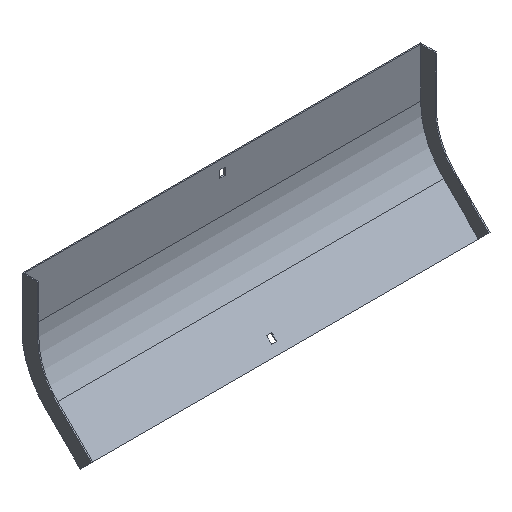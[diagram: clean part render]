
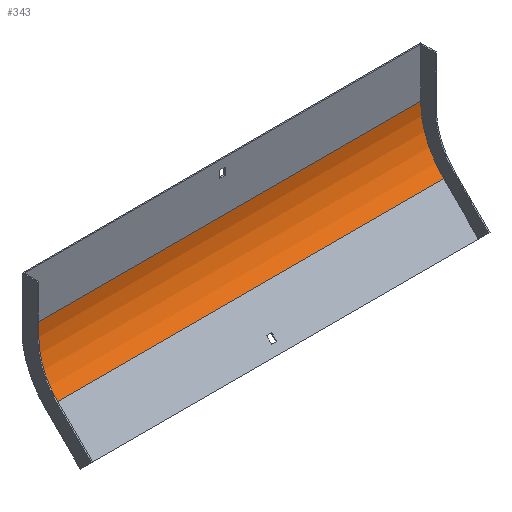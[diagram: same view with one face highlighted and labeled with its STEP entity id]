
A CAD part, isometric view. The second image highlights one B-rep face of the part: STEP entity #343.
In plain terms, the highlighted cylindrical face has radius 100 mm (diameter 200 mm), a partial arc.
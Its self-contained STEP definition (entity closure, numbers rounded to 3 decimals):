
#38 = CARTESIAN_POINT ( 'NONE',  ( -252., -1.5, -62.73 ) ) ;
#52 = CARTESIAN_POINT ( 'NONE',  ( 252., -1.5, -62.73 ) ) ;
#61 = AXIS2_PLACEMENT_3D ( 'NONE', #663, #473, #605 ) ;
#65 = LINE ( 'NONE', #730, #698 ) ;
#70 = DIRECTION ( 'NONE',  ( 0., 0., 1. ) ) ;
#76 = DIRECTION ( 'NONE',  ( -1., 0., 0. ) ) ;
#80 = CIRCLE ( 'NONE', #523, 100. ) ;
#106 = DIRECTION ( 'NONE',  ( -1., 0., 0. ) ) ;
#107 = CARTESIAN_POINT ( 'NONE',  ( -252., -30.789, -133.441 ) ) ;
#112 = CIRCLE ( 'NONE', #341, 100. ) ;
#121 = CARTESIAN_POINT ( 'NONE',  ( 252., -30.789, -133.441 ) ) ;
#142 = VERTEX_POINT ( 'NONE', #52 ) ;
#160 = ORIENTED_EDGE ( 'NONE', *, *, #810, .F. ) ;
#194 = EDGE_CURVE ( 'NONE', #318, #326, #65, .T. ) ;
#310 = FACE_OUTER_BOUND ( 'NONE', #619, .T. ) ;
#318 = VERTEX_POINT ( 'NONE', #121 ) ;
#326 = VERTEX_POINT ( 'NONE', #107 ) ;
#334 = CARTESIAN_POINT ( 'NONE',  ( -252., -101.5, -62.73 ) ) ;
#341 = AXIS2_PLACEMENT_3D ( 'NONE', #334, #678, #70 ) ;
#343 = ADVANCED_FACE ( 'NONE', ( #310 ), #785, .F. ) ;
#370 = CARTESIAN_POINT ( 'NONE',  ( 252., -101.5, -62.73 ) ) ;
#380 = CARTESIAN_POINT ( 'NONE',  ( 253.5, -1.5, -62.73 ) ) ;
#414 = EDGE_CURVE ( 'NONE', #318, #142, #80, .T. ) ;
#450 = VERTEX_POINT ( 'NONE', #38 ) ;
#451 = LINE ( 'NONE', #380, #766 ) ;
#470 = ORIENTED_EDGE ( 'NONE', *, *, #194, .F. ) ;
#473 = DIRECTION ( 'NONE',  ( -1., 0., 0. ) ) ;
#492 = DIRECTION ( 'NONE',  ( 1., 0., 0. ) ) ;
#513 = ORIENTED_EDGE ( 'NONE', *, *, #414, .T. ) ;
#523 = AXIS2_PLACEMENT_3D ( 'NONE', #370, #492, #820 ) ;
#605 = DIRECTION ( 'NONE',  ( 0., 0., 1. ) ) ;
#619 = EDGE_LOOP ( 'NONE', ( #160, #470, #513, #760 ) ) ;
#662 = EDGE_CURVE ( 'NONE', #142, #450, #451, .T. ) ;
#663 = CARTESIAN_POINT ( 'NONE',  ( 253.5, -101.5, -62.73 ) ) ;
#678 = DIRECTION ( 'NONE',  ( 1., 0., 0. ) ) ;
#698 = VECTOR ( 'NONE', #76, 1000. ) ;
#730 = CARTESIAN_POINT ( 'NONE',  ( 253.5, -30.789, -133.441 ) ) ;
#760 = ORIENTED_EDGE ( 'NONE', *, *, #662, .T. ) ;
#766 = VECTOR ( 'NONE', #106, 1000. ) ;
#785 = CYLINDRICAL_SURFACE ( 'NONE', #61, 100. ) ;
#810 = EDGE_CURVE ( 'NONE', #326, #450, #112, .T. ) ;
#820 = DIRECTION ( 'NONE',  ( 0., 0., 1. ) ) ;
